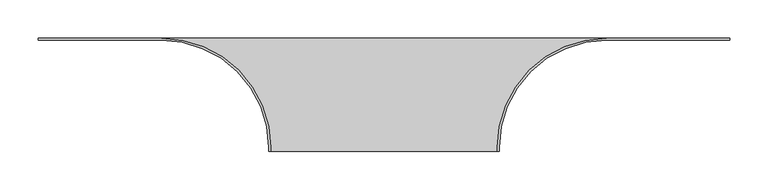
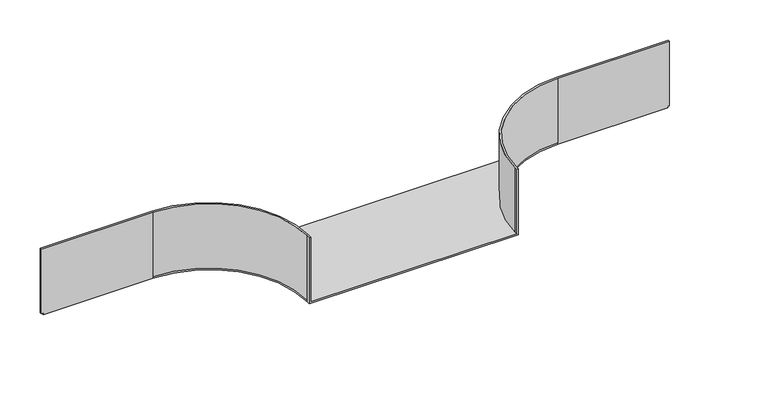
"""IFC4 building model written with IfcOpenShell, lengths in millimetres: cable carrier fitting geometry, BAKS_Horizontal addon tee : TKDJ_H100."""

import ifcopenshell
import ifcopenshell.guid

model = None  # the IFC model being written
_history = None  # IfcOwnerHistory: only IFC2X3 demands one
_inside = {}  # id of a spatial element -> (the spatial element, [elements in it])
_under = {}  # id of a project, library or spatial element -> (it, [spatial elements below it])
_declared = {}  # id of a project -> (the project, [libraries it declares])
_typed = {}  # id of a type object -> (the type object, [elements of that type])
_made_of = {}  # id of a material, layer set ... -> (it, [elements and type objects made of it])


def new_model(schema):
    """Start an empty IFC model of exactly this schema.

    Asked for "IFC4X3", IfcOpenShell would pick the latest addendum, in which some entities
    have other attributes; the version numbers below select the first issue.
    IFC2X3 requires an IfcOwnerHistory on every rooted entity: one is made here for all.
    """
    global model, _history
    if schema == "IFC4X3":
        model = ifcopenshell.file(schema_version=(4, 3, 0, 0))
    else:
        model = ifcopenshell.file(schema=schema)
    _inside.clear()
    _under.clear()
    _declared.clear()
    _typed.clear()
    _made_of.clear()
    _history = None
    if model.schema == "IFC2X3":
        org = make("IfcOrganization", Name="unknown")
        user = make(
            "IfcPersonAndOrganization",
            ThePerson=make("IfcPerson", FamilyName="unknown"),
            TheOrganization=org,
        )
        app = make(
            "IfcApplication",
            ApplicationDeveloper=org,
            Version="unknown",
            ApplicationFullName="unknown",
            ApplicationIdentifier="unknown",
        )
        _history = make(
            "IfcOwnerHistory",
            OwningUser=user,
            OwningApplication=app,
            ChangeAction="ADDED",
            CreationDate=0,
        )
    return model


def make(cls, **values):
    """One entity of the class cls with the attributes given. An attribute that is None is left unset."""
    return model.create_entity(
        cls, **{name: value for name, value in values.items() if value is not None}
    )


def rooted(cls, **values):
    """An entity with a GlobalId (a new one), such as an element, a storey or a relation."""
    return make(cls, GlobalId=ifcopenshell.guid.new(), OwnerHistory=_history, **values)


def si_unit(unit_type, name, prefix=None):
    """IfcSIUnit, for example si_unit("LENGTHUNIT", "METRE", prefix="MILLI")."""
    return make("IfcSIUnit", UnitType=unit_type, Prefix=prefix, Name=name)


def assignment(units):
    """IfcUnitAssignment: the units of a project."""
    return None if units is None else make("IfcUnitAssignment", Units=units)


def point(xyz):
    """IfcCartesianPoint."""
    return None if xyz is None else make("IfcCartesianPoint", Coordinates=xyz)


def direction(xyz):
    """IfcDirection."""
    return None if xyz is None else make("IfcDirection", DirectionRatios=xyz)


def frame(location, z_axis=None, x_axis=None):
    """IfcAxis2Placement3D, a coordinate frame: its origin and axes. An axis left out is left unset."""
    return make(
        "IfcAxis2Placement3D",
        Location=point(location),
        Axis=direction(z_axis),
        RefDirection=direction(x_axis),
    )


def origin():
    """The frame at (0, 0, 0) with its axes left unset."""
    return frame((0.0, 0.0, 0.0))


def place(relative_to, where):
    """IfcLocalPlacement: puts the frame where relative to a parent placement (None: the world)."""
    return make(
        "IfcLocalPlacement", PlacementRelTo=relative_to, RelativePlacement=where
    )


def context(
    kind, dimensions, precision=None, world=None, true_north=None, identifier=None
):
    """IfcGeometricRepresentationContext, for example the 3D "Model" context."""
    return make(
        "IfcGeometricRepresentationContext",
        ContextIdentifier=identifier,
        ContextType=kind,
        CoordinateSpaceDimension=dimensions,
        Precision=precision,
        WorldCoordinateSystem=world,
        TrueNorth=true_north,
    )


def project(units=None, contexts=None):
    """IfcProject with its units and contexts."""
    return rooted(
        "IfcProject",
        Name="project",
        RepresentationContexts=contexts,
        UnitsInContext=assignment(units),
    )


def spatial(cls, under=None, at=None, **own):
    """A site, building, storey or space (cls), placed at a placement, below another one or the project."""
    s = rooted(cls, ObjectPlacement=at, **own)
    if under is not None:
        _under.setdefault(under.id(), (under, []))[1].append(s)
    return s


def polyline(points):
    """IfcPolyline through the points."""
    return make("IfcPolyline", Points=[point(p) for p in points])


def circle_curve(where, radius):
    """IfcCircle in the frame where."""
    return make("IfcCircle", Position=where, Radius=radius)


def shape(context_of_items, identifier, shape_type, items):
    """IfcShapeRepresentation: the items that make up one representation, for example the "Body"."""
    return make(
        "IfcShapeRepresentation",
        ContextOfItems=context_of_items,
        RepresentationIdentifier=identifier,
        RepresentationType=shape_type,
        Items=items,
    )


def source(mapping_origin, context_of_items, identifier, shape_type, items):
    """IfcRepresentationMap: a shape defined once, which mapped items show again and again."""
    return make(
        "IfcRepresentationMap",
        MappingOrigin=mapping_origin,
        MappedRepresentation=shape(context_of_items, identifier, shape_type, items),
    )


def transform(
    local_origin,
    x_axis=None,
    y_axis=None,
    z_axis=None,
    scale=None,
    scale2=None,
    scale3=None,
    uniform=True,
):
    """IfcCartesianTransformationOperator3D, or its non-uniform kind. x_axis, y_axis, z_axis: its Axis1, 2, 3."""
    if uniform:
        return make(
            "IfcCartesianTransformationOperator3D",
            Axis1=direction(x_axis),
            Axis2=direction(y_axis),
            LocalOrigin=point(local_origin),
            Scale=scale,
            Axis3=direction(z_axis),
        )
    return make(
        "IfcCartesianTransformationOperator3DnonUniform",
        Axis1=direction(x_axis),
        Axis2=direction(y_axis),
        LocalOrigin=point(local_origin),
        Scale=scale,
        Axis3=direction(z_axis),
        Scale2=scale2,
        Scale3=scale3,
    )


def mapped(mapping_source, mapping_target):
    """IfcMappedItem: shows the shape of a source again, moved by a transform."""
    return make(
        "IfcMappedItem", MappingSource=mapping_source, MappingTarget=mapping_target
    )


def made_of(thing, what):
    """Note that an element or type object is made of a material, layer set ...; save() writes the relation."""
    if what is not None:
        _made_of.setdefault(what.id(), (what, []))[1].append(thing)
    return thing


def element(
    cls,
    number,
    at=None,
    inside=None,
    cuts=None,
    type_object=None,
    material=None,
    context=None,
    identifier="Body",
    shape_type=None,
    held_by="IfcProductDefinitionShape",
    body=None,
    shapes=None,
    **own,
):
    """One element of the class cls, such as IfcWall. Its Tag is "e" and its number.

    at: its placement. inside: the storey or other place that contains it. cuts: it is an
    opening in that element (IfcRelVoidsElement). A single representation is given by context,
    identifier, shape_type and body (its items); several are given by shapes. held_by: the class
    of the entity that holds the representations. save() writes the other relations.
    """
    e = rooted(cls, Tag="e%d" % number, ObjectPlacement=at, **own)
    if body is not None:
        shapes = [shape(context, identifier, shape_type, body)]
    if shapes is not None:
        e.Representation = make(held_by, Representations=shapes)
    if inside is not None:
        _inside.setdefault(inside.id(), (inside, []))[1].append(e)
    if cuts is not None:
        rooted(
            "IfcRelVoidsElement", RelatingBuildingElement=cuts, RelatedOpeningElement=e
        )
    if type_object is not None:
        _typed.setdefault(type_object.id(), (type_object, []))[1].append(e)
    return made_of(e, material)


def aggregate(whole, parts):
    """IfcRelAggregates: a whole, such as a stair, and the parts it consists of."""
    return rooted("IfcRelAggregates", RelatingObject=whole, RelatedObjects=parts)


def save(model, path):
    """Write the relations noted so far, then the file.

    IfcRelAggregates (storeys below a building ...), IfcRelContainedInSpatialStructure (elements
    in a storey), IfcRelDefinesByType, IfcRelAssociatesMaterial and IfcRelDeclares: one each for
    every whole, place, type object, material and project.
    """
    for whole, parts in _under.values():
        aggregate(whole, parts)
    for where, things in _inside.values():
        rooted(
            "IfcRelContainedInSpatialStructure",
            RelatedElements=things,
            RelatingStructure=where,
        )
    for kind, things in _typed.values():
        rooted("IfcRelDefinesByType", RelatedObjects=things, RelatingType=kind)
    for what, things in _made_of.values():
        rooted("IfcRelAssociatesMaterial", RelatedObjects=things, RelatingMaterial=what)
    for by, libraries in _declared.values():
        rooted("IfcRelDeclares", RelatingContext=by, RelatedDefinitions=libraries)
    model.write(path)


def plane_surface(at):
    """IfcPlane: the flat surface through the origin of the frame at, square to its z axis."""
    return make("IfcPlane", Position=at)


def cylinder_surface(at, radius):
    """IfcCylindricalSurface: all points at the distance radius from the z axis of the frame at."""
    return make("IfcCylindricalSurface", Position=at, Radius=radius)


def revolved_surface(curve, axis_point, axis_direction):
    """IfcSurfaceOfRevolution: the curve turned about the line through axis_point along axis_direction."""
    return make(
        "IfcSurfaceOfRevolution",
        SweptCurve=make("IfcArbitraryOpenProfileDef", ProfileType="CURVE", Curve=curve),
        AxisPosition=make("IfcAxis1Placement", Location=point(axis_point), Axis=direction(axis_direction)),
    )


def advanced_brep(points, edges, surfaces, faces):
    """IfcAdvancedBrep: a solid bounded by faces that lie on surfaces and meet in shared edges.

    An edge is (start, end): straight between two places in points (the first is 0);
    or (start, end, curve); or (start, end, curve, False) where it runs against its curve.
    A face is (place in surfaces, loops), or (place, loops, False) where it looks against
    its surface's normal. A loop lists edges by number (the first is 1), with a minus sign
    where the edge is run from its end to its start. The first loop is the outer one.
    """
    corners = [point(p) for p in points]
    vertices = [make("IfcVertexPoint", VertexGeometry=c) for c in corners]
    made = []
    for start, end, *more in edges:
        made.append(
            make(
                "IfcEdgeCurve",
                EdgeStart=vertices[start],
                EdgeEnd=vertices[end],
                EdgeGeometry=more[0] if more else make("IfcPolyline", Points=[corners[start], corners[end]]),
                SameSense=more[1] if len(more) > 1 else True,
            )
        )
    hull = []
    for where, loops, *sense in faces:
        bounds = []
        for j, loop in enumerate(loops):
            ring = [make("IfcOrientedEdge", EdgeElement=made[abs(k) - 1], Orientation=k > 0) for k in loop]
            bounds.append(
                make(
                    "IfcFaceOuterBound" if j == 0 else "IfcFaceBound",
                    Bound=make("IfcEdgeLoop", EdgeList=ring),
                    Orientation=True,
                )
            )
        hull.append(make("IfcAdvancedFace", Bounds=bounds, FaceSurface=surfaces[where], SameSense=sense[0] if sense else True))
    return make("IfcAdvancedBrep", Outer=make("IfcClosedShell", CfsFaces=hull))


def cable_carrier_fitting_81c76d70(model_context):
    return source(origin(), model_context, "Body", "AdvancedBrep", [
        advanced_brep(
        [(-150.0, -292.54, 50.0), (-150.0, -297.54, 50.0), (-147.46, -297.54, 50.0), (-147.46, -292.54, 50.0), (-290.0, -150.0, 50.0), (-450.0, -150.0, 50.0), (-450.0, -152.54, 50.0), (-290.0, -152.54, 50.0), (150.0, -292.54, 50.0), (290.0, -152.54, 50.0), (450.0, -152.54, 50.0), (450.0, -150.0, 50.0), (290.0, -150.0, 50.0), (147.46, -292.54, 50.0), (147.46, -297.54, 50.0), (150.0, -297.54, 50.0), (-450.0, -152.54, -47.46), (-450.0, -150.0, -47.46), (-447.46, -150.0, -47.46), (-447.46, -152.54, -47.46), (450.0, -150.0, -47.46), (450.0, -152.54, -47.46), (447.46, -152.54, -47.46), (447.46, -150.0, -47.46), (-150.0, -292.54, -47.46), (-150.0, -292.54, -50.0), (-150.0, -297.54, -50.0), (150.0, -297.54, -50.0), (147.46, -297.54, -47.46), (-147.46, -297.54, -47.46), (-147.46, -292.54, -47.46), (-290.0, -150.0, -47.46), (290.0, -150.0, -47.46), (447.46, -150.0, -50.0), (-447.46, -150.0, -50.0), (-447.46, -152.54, -50.0), (-290.0, -152.54, -50.0), (-290.0, -152.54, -47.46), (150.0, -292.54, -47.46), (290.0, -152.54, -47.46), (290.0, -152.54, -50.0), (447.46, -152.54, -50.0), (147.46, -292.54, -47.46), (150.0, -292.54, -50.0)],
        [
            (0, 1),
            (1, 2),
            (2, 3),
            (3, 4, circle_curve(frame((-290.0, -292.54, 50.0), z_axis=(0.0, 0.0, 1.0), x_axis=(1.0, 0.0, 0.0)), 142.54)),
            (4, 5),
            (5, 6),
            (6, 7),
            (7, 0, circle_curve(frame((-290.0, -292.54, 50.0), z_axis=(0.0, 0.0, -1.0), x_axis=(1.0, 0.0, 0.0)), 140.0)),
            (8, 9, circle_curve(frame((290.0, -292.54, 50.0), z_axis=(0.0, 0.0, -1.0), x_axis=(1.0, 0.0, 0.0)), 140.0)),
            (9, 10),
            (10, 11),
            (11, 12),
            (12, 13, circle_curve(frame((290.0, -292.54, 50.0), z_axis=(0.0, 0.0, 1.0), x_axis=(1.0, 0.0, 0.0)), 142.54)),
            (13, 14),
            (14, 15),
            (15, 8),
            (16, 17),
            (17, 18),
            (18, 19),
            (19, 16),
            (20, 21),
            (21, 22),
            (22, 23),
            (23, 20),
            (0, 24),
            (24, 25),
            (25, 26),
            (26, 1),
            (26, 27),
            (27, 15),
            (14, 28),
            (28, 29),
            (29, 2),
            (29, 30),
            (30, 3),
            (30, 31, circle_curve(frame((-290.0, -292.54, -47.46), z_axis=(0.0, 0.0, 1.0), x_axis=(1.0, 0.0, 0.0)), 142.54)),
            (31, 4),
            (31, 32),
            (32, 12),
            (11, 20),
            (23, 33),
            (33, 34),
            (34, 18),
            (17, 5),
            (6, 16),
            (19, 35),
            (35, 36),
            (36, 37),
            (37, 7),
            (37, 24, circle_curve(frame((-290.0, -292.54, -47.46), z_axis=(0.0, 0.0, -1.0), x_axis=(1.0, 0.0, 0.0)), 140.0)),
            (8, 38),
            (38, 39, circle_curve(frame((290.0, -292.54, -47.46), z_axis=(0.0, 0.0, -1.0), x_axis=(1.0, 0.0, 0.0)), 140.0)),
            (39, 9),
            (39, 40),
            (40, 41),
            (41, 22),
            (21, 10),
            (32, 42, circle_curve(frame((290.0, -292.54, -47.46), z_axis=(0.0, 0.0, 1.0), x_axis=(1.0, 0.0, 0.0)), 142.54)),
            (42, 13),
            (42, 28),
            (27, 43),
            (43, 38),
            (25, 36, circle_curve(frame((-290.0, -292.54, -50.0), z_axis=(0.0, 0.0, 1.0), x_axis=(1.0, 0.0, 0.0)), 140.0)),
            (35, 34),
            (33, 41),
            (40, 43, circle_curve(frame((290.0, -292.54, -50.0), z_axis=(0.0, 0.0, 1.0), x_axis=(1.0, 0.0, 0.0)), 140.0)),
        ],
        [
            plane_surface(frame((-150.0, -292.54, 50.0), z_axis=(0.0, 0.0, 1.0), x_axis=(0.0, -1.0, 0.0))),
            plane_surface(frame((-150.0, -292.54, -47.46), z_axis=(0.0, 0.0, -1.0), x_axis=(0.0, 1.0, 0.0))),
            plane_surface(frame((-150.0, -292.54, 50.0), z_axis=(-1.0, 0.0, 0.0), x_axis=(0.0, 0.0, -1.0))),
            plane_surface(frame((-150.0, -297.54, 50.0), z_axis=(0.0, -1.0, 0.0), x_axis=(0.0, 0.0, -1.0))),
            plane_surface(frame((-147.46, -297.54, 50.0), z_axis=(1.0, 0.0, 0.0), x_axis=(0.0, 0.0, -1.0))),
            cylinder_surface(frame((-290.0, -292.54, -47.46), z_axis=(0.0, 0.0, 1.0), x_axis=(1.0, 0.0, 0.0)), 142.54),
            plane_surface(frame((-290.0, -150.0, 50.0), z_axis=(0.0, 1.0, 0.0), x_axis=(0.0, 0.0, -1.0))),
            plane_surface(frame((-450.0, -152.54, 50.0), z_axis=(0.0, -1.0, 0.0), x_axis=(0.0, 0.0, -1.0))),
            revolved_surface(polyline([(-150.0, -292.54, -47.46), (-150.0, -292.54, 50.00000000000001)]), (-290.0, -292.54, -47.46), (0.0, 0.0, -1.0)),
            revolved_surface(polyline([(430.0, -292.54, -47.46), (430.0, -292.54, 50.0)]), (290.0, -292.54, 0.0), (0.0, 0.0, -1.0)),
            plane_surface(frame((290.0, -152.54, 50.0), z_axis=(0.0, -1.0, 0.0), x_axis=(0.0, 0.0, -1.0))),
            cylinder_surface(frame((290.0, -292.54, 0.0), z_axis=(0.0, 0.0, 1.0), x_axis=(1.0, 0.0, 0.0)), 142.54),
            plane_surface(frame((147.46, -292.54, 50.0), z_axis=(-1.0, 0.0, 0.0), x_axis=(0.0, 0.0, -1.0))),
            plane_surface(frame((150.0, -297.54, 50.0), z_axis=(1.0, 0.0, 0.0), x_axis=(0.0, 0.0, -1.0))),
            plane_surface(frame((-150.0, -292.54, -47.46), z_axis=(0.0, 0.0, 1.0), x_axis=(0.0, -1.0, 0.0))),
            plane_surface(frame((-150.0, -292.54, -50.0), z_axis=(0.0, 0.0, -1.0), x_axis=(0.0, 1.0, 0.0))),
            revolved_surface(polyline([(430.0, -292.54, -50.0), (430.0, -292.54, -47.46)]), (290.0, -292.54, -50.0), (0.0, 0.0, -1.0)),
            plane_surface(frame((447.46, -152.54, -47.46), z_axis=(1.0, 0.0, 0.0), x_axis=(0.0, 0.0, -1.0))),
            plane_surface(frame((-447.46, -150.0, -47.46), z_axis=(-1.0, 0.0, 0.0), x_axis=(0.0, 0.0, -1.0))),
            revolved_surface(polyline([(-150.0, -292.54, -50.0), (-150.0, -292.54, -47.46)]), (-290.0, -292.54, -50.0), (0.0, 0.0, -1.0)),
            plane_surface(frame((-450.0, -150.0, 50.0), z_axis=(-1.0, 0.0, 0.0), x_axis=(0.0, 0.0, -1.0))),
            plane_surface(frame((450.0, -152.54, 50.0), z_axis=(1.0, 0.0, 0.0), x_axis=(0.0, 0.0, -1.0))),
        ],
        [
            (0, [[1, 2, 3, 4, 5, 6, 7, 8]]),
            (0, [[9, 10, 11, 12, 13, 14, 15, 16]]),
            (1, [[17, 18, 19, 20]]),
            (1, [[21, 22, 23, 24]]),
            (2, [[-1, 25, 26, 27, 28]]),
            (3, [[-2, -28, 29, 30, -15, 31, 32, 33]]),
            (4, [[-3, -33, 34, 35]]),
            (5, [[-4, -35, 36, 37]]),
            (6, [[-5, -37, 38, 39, -12, 40, -24, 41, 42, 43, -18, 44]]),
            (7, [[-7, 45, -20, 46, 47, 48, 49]]),
            (8, [[-8, -49, 50, -25]]),
            (9, [[-9, 51, 52, 53]]),
            (10, [[-10, -53, 54, 55, 56, -22, 57]]),
            (11, [[-13, -39, 58, 59]]),
            (12, [[-14, -59, 60, -31]]),
            (13, [[-16, -30, 61, 62, -51]]),
            (14, [[-32, -60, -58, -38, -36, -34]]),
            (15, [[63, -47, 64, -42, 65, -55, 66, -61, -29, -27]]),
            (16, [[-66, -54, -52, -62]]),
            (17, [[-65, -41, -23, -56]]),
            (18, [[-64, -46, -19, -43]]),
            (19, [[-63, -26, -50, -48]]),
            (20, [[-6, -44, -17, -45]]),
            (21, [[-11, -57, -21, -40]]),
        ],
    ),
    ])


if __name__ == "__main__":
    model = new_model("IFC4")
    model_context = context("Model", 3, world=origin())
    ifc_project = project(units=[si_unit("LENGTHUNIT", "METRE", prefix="MILLI")], contexts=[model_context])
    site = spatial("IfcSite", under=ifc_project)
    building = spatial("IfcBuilding", under=site)
    placement = place(None, origin())
    cable_carrier_fitting_shape = cable_carrier_fitting_81c76d70(model_context)
    element("IfcCableCarrierFitting", 1, ObjectType="BAKS_Horizontal addon tee : TKDJ_H100", at=placement, inside=building, context=model_context, shape_type="MappedRepresentation", body=[
        mapped(cable_carrier_fitting_shape, transform((0.0, 0.0, 0.0), x_axis=(1.0, 0.0, 0.0), y_axis=(0.0, 1.0, 0.0), z_axis=(0.0, 0.0, 1.0))),
    ])
    save(model, "model.ifc")
